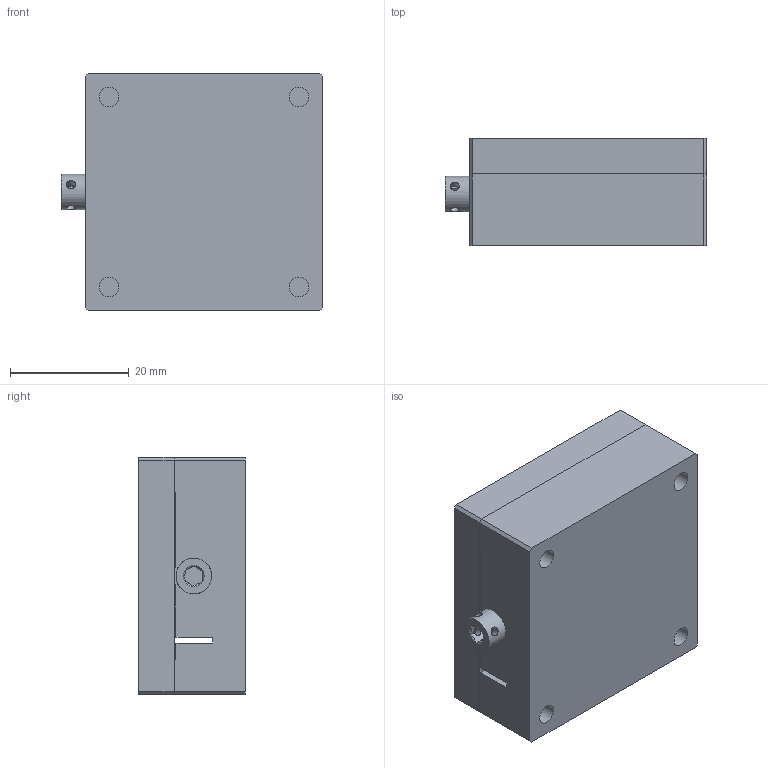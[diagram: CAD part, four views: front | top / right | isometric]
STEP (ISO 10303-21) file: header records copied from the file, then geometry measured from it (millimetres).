
FILE_DESCRIPTION (( 'STEP AP203' ), '1' );
FILE_NAME ('BKA40.STEP', '2024-07-31T08:06:25', ( 'Windows User' ), ( 'P R C' ), 'SwSTEP 2.0', 'SolidWorks 2024', '' );
FILE_SCHEMA (( 'CONFIG_CONTROL_DESIGN' ));
Length unit declared in the file: millimetre
Products named in the file (1): BKA40
Bounding box: 44 x 18 x 40 mm (x, y, z)
Volume: 25383.3 mm3; surface area: 13009.1 mm2
Topology: 3 solids, 3 shells, 128 faces, 348 edges, 229 vertices
Faces by surface type: plane 77, cylinder 40, cone 11
Full cylindrical faces by diameter (mm): 1.5 x4, 2.5 x11, 3 x2, 3.3 x5, 3.5 x1, 4 x1, 4.5 x1, 6 x5
Entity records: 3942 total; most frequent: CARTESIAN_POINT 841, DIRECTION 611, ORIENTED_EDGE 574, EDGE_CURVE 287, AXIS2_PLACEMENT_3D 210, VERTEX_POINT 210, EDGE_LOOP 197, LINE 191
